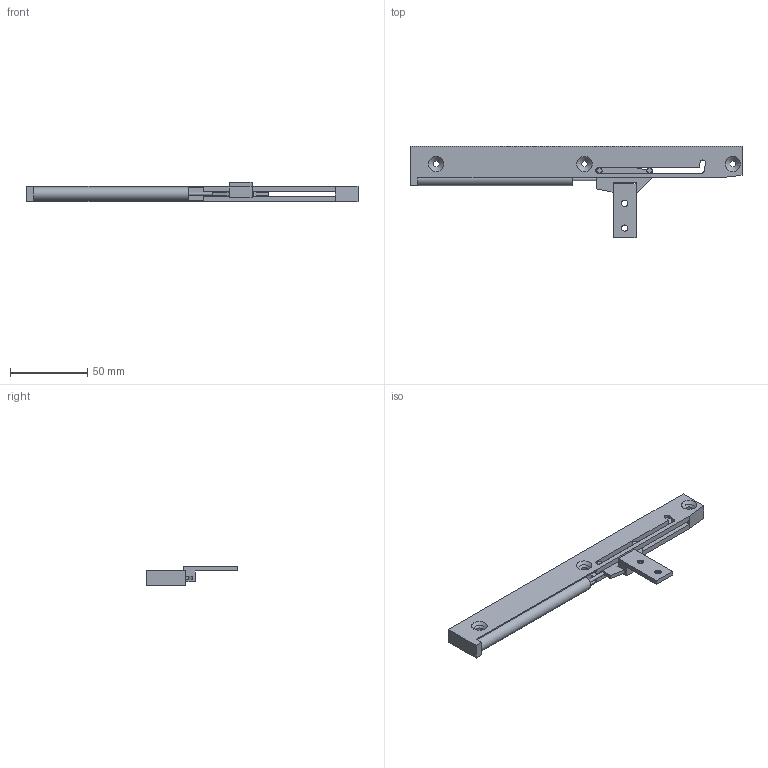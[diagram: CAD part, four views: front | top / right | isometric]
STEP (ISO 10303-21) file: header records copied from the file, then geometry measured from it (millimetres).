
FILE_DESCRIPTION(/* description */ (''),/* implementation_level */ '2;1');
FILE_NAME(/* name */ 'D:\$Workingspace\Designs\Katalog\Cadsoft\GTV Prwadnice II\MP (2)\MP\Metal box 3D\AM-MBSOFT-P2.stp',/* time_stamp */ '2017-02-09T10:24:39+01:00',/* author */ ('tomaszw'),/* organization */ (''),/* preprocessor_version */ 'ST-DEVELOPER v16.1',/* originating_system */ 'Autodesk Inventor 2016',/* authorisation */ '');
FILE_SCHEMA (('CONFIG_CONTROL_DESIGN'));
Length unit declared in the file: millimetre
Products named in the file (1): AM-MBSOFT-P2
Bounding box: 215 x 59.3 x 12.5 mm (x, y, z)
Volume: 28807.2 mm3; surface area: 27182.5 mm2
Topology: 3 solids, 3 shells, 92 faces, 242 edges, 157 vertices
Faces by surface type: plane 65, cylinder 19, cone 8
Full cylindrical faces by diameter (mm): 2 x1, 3.5 x3, 4 x5, 8.5 x1
Entity records: 2774 total; most frequent: CARTESIAN_POINT 472, DIRECTION 459, ORIENTED_EDGE 446, EDGE_CURVE 223, LINE 173, VECTOR 173, VERTEX_POINT 156, AXIS2_PLACEMENT_3D 143
